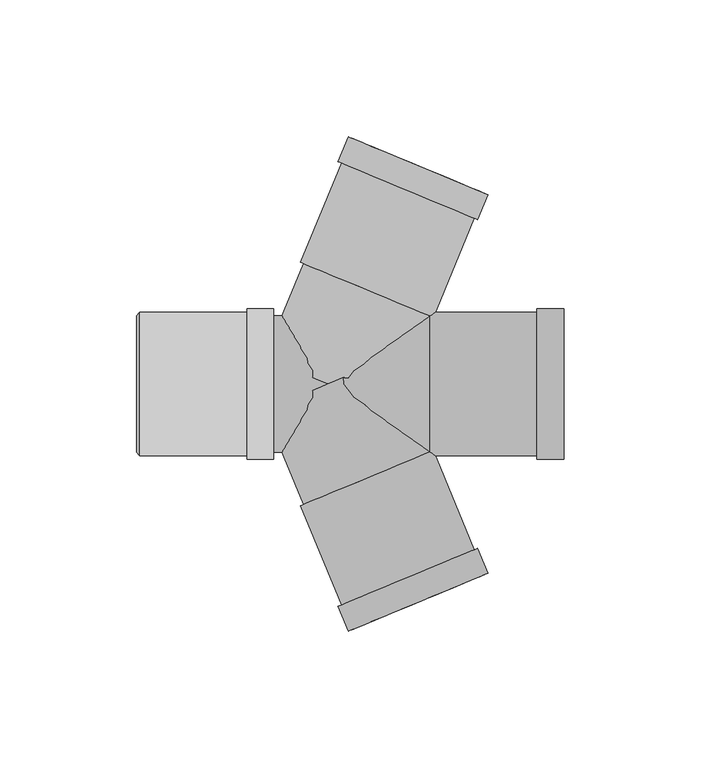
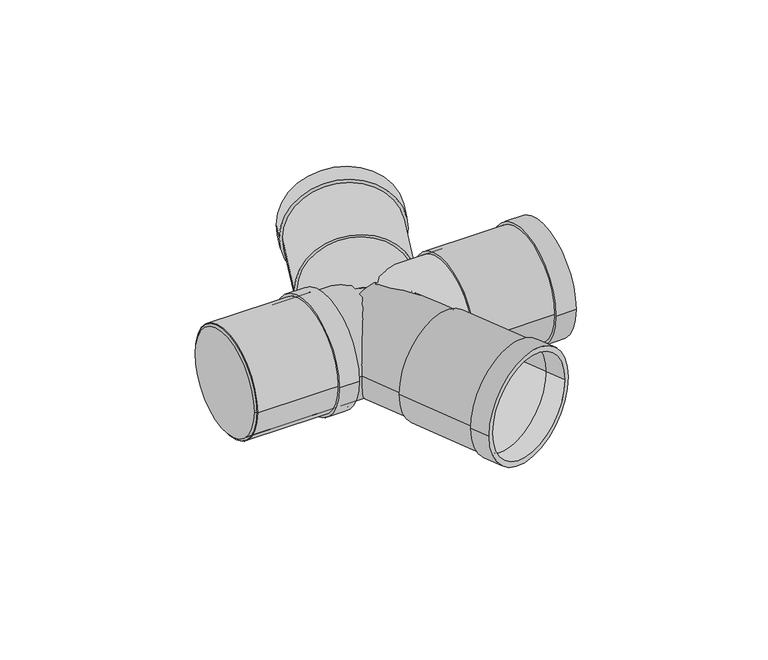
"""IFC4 building model written with IfcOpenShell, lengths in millimetres: pipe fitting geometry, Superdrain HTDA-Double Branch : Superdrain HTDA-Double Branch."""

import ifcopenshell
import ifcopenshell.guid

model = None  # the IFC model being written
_history = None  # IfcOwnerHistory: only IFC2X3 demands one
_inside = {}  # id of a spatial element -> (the spatial element, [elements in it])
_under = {}  # id of a project, library or spatial element -> (it, [spatial elements below it])
_declared = {}  # id of a project -> (the project, [libraries it declares])
_typed = {}  # id of a type object -> (the type object, [elements of that type])
_made_of = {}  # id of a material, layer set ... -> (it, [elements and type objects made of it])


def new_model(schema):
    """Start an empty IFC model of exactly this schema.

    Asked for "IFC4X3", IfcOpenShell would pick the latest addendum, in which some entities
    have other attributes; the version numbers below select the first issue.
    IFC2X3 requires an IfcOwnerHistory on every rooted entity: one is made here for all.
    """
    global model, _history
    if schema == "IFC4X3":
        model = ifcopenshell.file(schema_version=(4, 3, 0, 0))
    else:
        model = ifcopenshell.file(schema=schema)
    _inside.clear()
    _under.clear()
    _declared.clear()
    _typed.clear()
    _made_of.clear()
    _history = None
    if model.schema == "IFC2X3":
        org = make("IfcOrganization", Name="unknown")
        user = make(
            "IfcPersonAndOrganization",
            ThePerson=make("IfcPerson", FamilyName="unknown"),
            TheOrganization=org,
        )
        app = make(
            "IfcApplication",
            ApplicationDeveloper=org,
            Version="unknown",
            ApplicationFullName="unknown",
            ApplicationIdentifier="unknown",
        )
        _history = make(
            "IfcOwnerHistory",
            OwningUser=user,
            OwningApplication=app,
            ChangeAction="ADDED",
            CreationDate=0,
        )
    return model


def make(cls, **values):
    """One entity of the class cls with the attributes given. An attribute that is None is left unset."""
    return model.create_entity(
        cls, **{name: value for name, value in values.items() if value is not None}
    )


def rooted(cls, **values):
    """An entity with a GlobalId (a new one), such as an element, a storey or a relation."""
    return make(cls, GlobalId=ifcopenshell.guid.new(), OwnerHistory=_history, **values)


def si_unit(unit_type, name, prefix=None):
    """IfcSIUnit, for example si_unit("LENGTHUNIT", "METRE", prefix="MILLI")."""
    return make("IfcSIUnit", UnitType=unit_type, Prefix=prefix, Name=name)


def assignment(units):
    """IfcUnitAssignment: the units of a project."""
    return None if units is None else make("IfcUnitAssignment", Units=units)


def point(xyz):
    """IfcCartesianPoint."""
    return None if xyz is None else make("IfcCartesianPoint", Coordinates=xyz)


def direction(xyz):
    """IfcDirection."""
    return None if xyz is None else make("IfcDirection", DirectionRatios=xyz)


def frame(location, z_axis=None, x_axis=None):
    """IfcAxis2Placement3D, a coordinate frame: its origin and axes. An axis left out is left unset."""
    return make(
        "IfcAxis2Placement3D",
        Location=point(location),
        Axis=direction(z_axis),
        RefDirection=direction(x_axis),
    )


def frame_2d(location, x_axis=None):
    """IfcAxis2Placement2D, a coordinate frame in the plane: its origin and x axis."""
    return make(
        "IfcAxis2Placement2D", Location=point(location), RefDirection=direction(x_axis)
    )


def origin():
    """The frame at (0, 0, 0) with its axes left unset."""
    return frame((0.0, 0.0, 0.0))


def origin_2d():
    """The frame at (0, 0) in the plane with its x axis left unset."""
    return frame_2d((0.0, 0.0))


def place(relative_to, where):
    """IfcLocalPlacement: puts the frame where relative to a parent placement (None: the world)."""
    return make(
        "IfcLocalPlacement", PlacementRelTo=relative_to, RelativePlacement=where
    )


def context(
    kind, dimensions, precision=None, world=None, true_north=None, identifier=None
):
    """IfcGeometricRepresentationContext, for example the 3D "Model" context."""
    return make(
        "IfcGeometricRepresentationContext",
        ContextIdentifier=identifier,
        ContextType=kind,
        CoordinateSpaceDimension=dimensions,
        Precision=precision,
        WorldCoordinateSystem=world,
        TrueNorth=true_north,
    )


def project(units=None, contexts=None):
    """IfcProject with its units and contexts."""
    return rooted(
        "IfcProject",
        Name="project",
        RepresentationContexts=contexts,
        UnitsInContext=assignment(units),
    )


def spatial(cls, under=None, at=None, **own):
    """A site, building, storey or space (cls), placed at a placement, below another one or the project."""
    s = rooted(cls, ObjectPlacement=at, **own)
    if under is not None:
        _under.setdefault(under.id(), (under, []))[1].append(s)
    return s


def polyline(points):
    """IfcPolyline through the points."""
    return make("IfcPolyline", Points=[point(p) for p in points])


def circle_curve(where, radius):
    """IfcCircle in the frame where."""
    return make("IfcCircle", Position=where, Radius=radius)


def trimmed(basis, trim1, trim2, sense, master):
    """IfcTrimmedCurve: the piece of a basis curve between two trims."""
    return make(
        "IfcTrimmedCurve",
        BasisCurve=basis,
        Trim1=trim1,
        Trim2=trim2,
        SenseAgreement=sense,
        MasterRepresentation=master,
    )


def segment(curve, same_sense, transition):
    """IfcCompositeCurveSegment."""
    return make(
        "IfcCompositeCurveSegment",
        Transition=transition,
        SameSense=same_sense,
        ParentCurve=curve,
    )


def composite_curve(segments, self_intersect=None):
    """IfcCompositeCurve: segments joined end to end."""
    return make("IfcCompositeCurve", Segments=segments, SelfIntersect=self_intersect)


def outline(outer, holes=None, kind="AREA"):
    """IfcArbitraryClosedProfileDef: a profile drawn as a closed curve; with holes, ...WithVoids."""
    if holes is None:
        return make("IfcArbitraryClosedProfileDef", ProfileType=kind, OuterCurve=outer)
    return make(
        "IfcArbitraryProfileDefWithVoids",
        ProfileType=kind,
        OuterCurve=outer,
        InnerCurves=holes,
    )


def extrude(swept, where, along, depth):
    """IfcExtrudedAreaSolid: the profile swept, set in the frame where, extruded along a direction by depth."""
    return make(
        "IfcExtrudedAreaSolid",
        SweptArea=swept,
        Position=where,
        ExtrudedDirection=direction(along),
        Depth=depth,
    )


def shape(context_of_items, identifier, shape_type, items):
    """IfcShapeRepresentation: the items that make up one representation, for example the "Body"."""
    return make(
        "IfcShapeRepresentation",
        ContextOfItems=context_of_items,
        RepresentationIdentifier=identifier,
        RepresentationType=shape_type,
        Items=items,
    )


def source(mapping_origin, context_of_items, identifier, shape_type, items):
    """IfcRepresentationMap: a shape defined once, which mapped items show again and again."""
    return make(
        "IfcRepresentationMap",
        MappingOrigin=mapping_origin,
        MappedRepresentation=shape(context_of_items, identifier, shape_type, items),
    )


def transform(
    local_origin,
    x_axis=None,
    y_axis=None,
    z_axis=None,
    scale=None,
    scale2=None,
    scale3=None,
    uniform=True,
):
    """IfcCartesianTransformationOperator3D, or its non-uniform kind. x_axis, y_axis, z_axis: its Axis1, 2, 3."""
    if uniform:
        return make(
            "IfcCartesianTransformationOperator3D",
            Axis1=direction(x_axis),
            Axis2=direction(y_axis),
            LocalOrigin=point(local_origin),
            Scale=scale,
            Axis3=direction(z_axis),
        )
    return make(
        "IfcCartesianTransformationOperator3DnonUniform",
        Axis1=direction(x_axis),
        Axis2=direction(y_axis),
        LocalOrigin=point(local_origin),
        Scale=scale,
        Axis3=direction(z_axis),
        Scale2=scale2,
        Scale3=scale3,
    )


def mapped(mapping_source, mapping_target):
    """IfcMappedItem: shows the shape of a source again, moved by a transform."""
    return make(
        "IfcMappedItem", MappingSource=mapping_source, MappingTarget=mapping_target
    )


def made_of(thing, what):
    """Note that an element or type object is made of a material, layer set ...; save() writes the relation."""
    if what is not None:
        _made_of.setdefault(what.id(), (what, []))[1].append(thing)
    return thing


def element(
    cls,
    number,
    at=None,
    inside=None,
    cuts=None,
    type_object=None,
    material=None,
    context=None,
    identifier="Body",
    shape_type=None,
    held_by="IfcProductDefinitionShape",
    body=None,
    shapes=None,
    **own,
):
    """One element of the class cls, such as IfcWall. Its Tag is "e" and its number.

    at: its placement. inside: the storey or other place that contains it. cuts: it is an
    opening in that element (IfcRelVoidsElement). A single representation is given by context,
    identifier, shape_type and body (its items); several are given by shapes. held_by: the class
    of the entity that holds the representations. save() writes the other relations.
    """
    e = rooted(cls, Tag="e%d" % number, ObjectPlacement=at, **own)
    if body is not None:
        shapes = [shape(context, identifier, shape_type, body)]
    if shapes is not None:
        e.Representation = make(held_by, Representations=shapes)
    if inside is not None:
        _inside.setdefault(inside.id(), (inside, []))[1].append(e)
    if cuts is not None:
        rooted(
            "IfcRelVoidsElement", RelatingBuildingElement=cuts, RelatedOpeningElement=e
        )
    if type_object is not None:
        _typed.setdefault(type_object.id(), (type_object, []))[1].append(e)
    return made_of(e, material)


def aggregate(whole, parts):
    """IfcRelAggregates: a whole, such as a stair, and the parts it consists of."""
    return rooted("IfcRelAggregates", RelatingObject=whole, RelatedObjects=parts)


def save(model, path):
    """Write the relations noted so far, then the file.

    IfcRelAggregates (storeys below a building ...), IfcRelContainedInSpatialStructure (elements
    in a storey), IfcRelDefinesByType, IfcRelAssociatesMaterial and IfcRelDeclares: one each for
    every whole, place, type object, material and project.
    """
    for whole, parts in _under.values():
        aggregate(whole, parts)
    for where, things in _inside.values():
        rooted(
            "IfcRelContainedInSpatialStructure",
            RelatedElements=things,
            RelatingStructure=where,
        )
    for kind, things in _typed.values():
        rooted("IfcRelDefinesByType", RelatedObjects=things, RelatingType=kind)
    for what, things in _made_of.values():
        rooted("IfcRelAssociatesMaterial", RelatedObjects=things, RelatingMaterial=what)
    for by, libraries in _declared.values():
        rooted("IfcRelDeclares", RelatingContext=by, RelatedDefinitions=libraries)
    model.write(path)


def plane_surface(at):
    """IfcPlane: the flat surface through the origin of the frame at, square to its z axis."""
    return make("IfcPlane", Position=at)


def revolved_surface(curve, axis_point, axis_direction):
    """IfcSurfaceOfRevolution: the curve turned about the line through axis_point along axis_direction."""
    return make(
        "IfcSurfaceOfRevolution",
        SweptCurve=make("IfcArbitraryOpenProfileDef", ProfileType="CURVE", Curve=curve),
        AxisPosition=make("IfcAxis1Placement", Location=point(axis_point), Axis=direction(axis_direction)),
    )


def advanced_brep(points, edges, surfaces, faces):
    """IfcAdvancedBrep: a solid bounded by faces that lie on surfaces and meet in shared edges.

    An edge is (start, end): straight between two places in points (the first is 0);
    or (start, end, curve); or (start, end, curve, False) where it runs against its curve.
    A face is (place in surfaces, loops), or (place, loops, False) where it looks against
    its surface's normal. A loop lists edges by number (the first is 1), with a minus sign
    where the edge is run from its end to its start. The first loop is the outer one.
    """
    corners = [point(p) for p in points]
    vertices = [make("IfcVertexPoint", VertexGeometry=c) for c in corners]
    made = []
    for start, end, *more in edges:
        made.append(
            make(
                "IfcEdgeCurve",
                EdgeStart=vertices[start],
                EdgeEnd=vertices[end],
                EdgeGeometry=more[0] if more else make("IfcPolyline", Points=[corners[start], corners[end]]),
                SameSense=more[1] if len(more) > 1 else True,
            )
        )
    hull = []
    for where, loops, *sense in faces:
        bounds = []
        for j, loop in enumerate(loops):
            ring = [make("IfcOrientedEdge", EdgeElement=made[abs(k) - 1], Orientation=k > 0) for k in loop]
            bounds.append(
                make(
                    "IfcFaceOuterBound" if j == 0 else "IfcFaceBound",
                    Bound=make("IfcEdgeLoop", EdgeList=ring),
                    Orientation=True,
                )
            )
        hull.append(make("IfcAdvancedFace", Bounds=bounds, FaceSurface=surfaces[where], SameSense=sense[0] if sense else True))
    return make("IfcAdvancedBrep", Outer=make("IfcClosedShell", CfsFaces=hull))


def pipe_fitting_e68889b6(model_context):
    return source(origin(), model_context, "Body", "SolidModel", [
        extrude(outline(composite_curve([segment(trimmed(circle_curve(origin_2d(), 26.25), [point((26.25, 0.0))], [point((-26.25, 0.0))], False, "CARTESIAN"), True, "CONTINUOUS"), segment(trimmed(circle_curve(origin_2d(), 26.25), [point((-26.25, 0.0))], [point((26.25, 0.0))], False, "CARTESIAN"), True, "CONTINUOUS")], self_intersect=False), holes=[composite_curve([segment(trimmed(circle_curve(origin_2d(), 25.0), [point((25.0, 0.0))], [point((-25.0, 0.0))], True, "CARTESIAN"), True, "CONTINUOUS"), segment(trimmed(circle_curve(origin_2d(), 25.0), [point((-25.0, 0.0))], [point((25.0, 0.0))], True, "CARTESIAN"), True, "CONTINUOUS")], self_intersect=False)]), frame((-68.8, 0.0, 0.0), z_axis=(1.0, 0.0, 0.0), x_axis=(0.0, 1.0, 0.0)), (0.0, 0.0, 1.0), 49.0),
        extrude(outline(composite_curve([segment(trimmed(circle_curve(origin_2d(), 27.5625), [point((27.5625, 0.0))], [point((-27.5625, 0.0))], False, "CARTESIAN"), True, "CONTINUOUS"), segment(trimmed(circle_curve(origin_2d(), 27.5625), [point((-27.5625, 0.0))], [point((27.5625, 0.0))], False, "CARTESIAN"), True, "CONTINUOUS")], self_intersect=False), holes=[composite_curve([segment(trimmed(circle_curve(origin_2d(), 25.0), [point((25.0, 0.0))], [point((-25.0, 0.0))], True, "CARTESIAN"), True, "CONTINUOUS"), segment(trimmed(circle_curve(origin_2d(), 25.0), [point((-25.0, 0.0))], [point((25.0, 0.0))], True, "CARTESIAN"), True, "CONTINUOUS")], self_intersect=False)]), frame((-29.6, 0.0, 0.0), z_axis=(1.0, 0.0, 0.0), x_axis=(0.0, 1.0, 0.0)), (0.0, 0.0, 1.0), 9.8),
        advanced_brep(
        [(-69.8, 25.0, 0.0), (-69.8, -25.0, 0.0), (-68.8, 26.25, 0.0), (-68.8, -26.25, 0.0)],
        [
            (0, 1, circle_curve(frame((-69.8, 0.0, 0.0), z_axis=(-1.0, 0.0, 0.0), x_axis=(0.0, 1.0000000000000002, 0.0)), 25.0)),
            (1, 0, circle_curve(frame((-69.8, 0.0, 0.0), z_axis=(-1.0, 0.0, 0.0), x_axis=(0.0, -1.0000000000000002, 0.0)), 25.0)),
            (2, 3, circle_curve(frame((-68.8, 0.0, 0.0), z_axis=(1.0, 0.0, 0.0), x_axis=(0.0, -1.0000000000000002, 0.0)), 26.25)),
            (3, 2, circle_curve(frame((-68.8, 0.0, 0.0), z_axis=(1.0, 0.0, 0.0), x_axis=(0.0, 1.0000000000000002, 0.0)), 26.25)),
            (3, 1),
            (0, 2),
        ],
        [
            plane_surface(frame((-69.8, 0.0, 0.0), z_axis=(-1.0, 0.0, 0.0), x_axis=(0.0, 0.0, -1.0))),
            plane_surface(frame((-68.8, 0.0, 0.0), z_axis=(1.0, 0.0, 0.0), x_axis=(0.0, 0.0, -1.0))),
            revolved_surface(polyline([(-69.8, 25.0, 0.0), (-68.8, 26.25, 0.0)]), (-89.8, 0.0, 0.0), (1.0000000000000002, 0.0, 0.0)),
            revolved_surface(polyline([(-69.8, -25.0, 0.0), (-68.8, -26.25, 0.0)]), (-89.8, 0.0, 0.0), (1.0000000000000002, 0.0, 0.0)),
        ],
        [
            (0, [[1, 2]]),
            (1, [[3, 4]]),
            (2, [[-4, 5, -1, 6]]),
            (3, [[-3, -6, -2, -5]]),
        ],
    ),
        extrude(outline(composite_curve([segment(trimmed(circle_curve(origin_2d(), 27.5625), [point((0.0, -27.5625))], [point((0.0, 27.5625))], False, "CARTESIAN"), True, "CONTINUOUS"), segment(trimmed(circle_curve(origin_2d(), 27.5625), [point((0.0, 27.5625))], [point((0.0, -27.5625))], False, "CARTESIAN"), True, "CONTINUOUS")], self_intersect=False), holes=[composite_curve([segment(trimmed(circle_curve(origin_2d(), 25.0), [point((0.0, -25.0))], [point((0.0, 25.0))], True, "CARTESIAN"), True, "CONTINUOUS"), segment(trimmed(circle_curve(origin_2d(), 25.0), [point((0.0, 25.0))], [point((0.0, -25.0))], True, "CARTESIAN"), True, "CONTINUOUS")], self_intersect=False)]), frame((32.9873119, -79.6384157, 0.0), z_axis=(-0.3826834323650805, 0.9238795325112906, 0.0), x_axis=(0.0, 0.0, 1.0)), (0.0, 0.0, 1.0), 9.8),
        extrude(outline(composite_curve([segment(trimmed(circle_curve(origin_2d(), 26.25), [point((0.0, -26.2500001))], [point((0.0, 26.25))], False, "CARTESIAN"), True, "CONTINUOUS"), segment(trimmed(circle_curve(origin_2d(), 26.25), [point((0.0, 26.25))], [point((0.0, -26.2500001))], False, "CARTESIAN"), True, "CONTINUOUS")], self_intersect=False), holes=[composite_curve([segment(trimmed(circle_curve(origin_2d(), 25.0), [point((0.0, -25.0))], [point((0.0, 25.0))], True, "CARTESIAN"), True, "CONTINUOUS"), segment(trimmed(circle_curve(origin_2d(), 25.0), [point((0.0, 25.0))], [point((0.0, -25.0))], True, "CARTESIAN"), True, "CONTINUOUS")], self_intersect=False)]), frame((32.9873119, -79.6384157, 0.0), z_axis=(-0.3826834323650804, 0.9238795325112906, 0.0), x_axis=(0.0, 0.0, 1.0)), (0.0, 0.0, 1.0), 49.0),
        extrude(outline(composite_curve([segment(trimmed(circle_curve(origin_2d(), 25.0), [point((0.0, -25.0))], [point((0.0, 25.0))], False, "CARTESIAN"), True, "CONTINUOUS"), segment(trimmed(circle_curve(origin_2d(), 25.0), [point((0.0, 25.0))], [point((0.0, -25.0))], False, "CARTESIAN"), True, "CONTINUOUS")], self_intersect=False)), frame((14.2358237, -34.3683186, 0.0), z_axis=(-0.38268343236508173, 0.9238795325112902, 0.0), x_axis=(0.0, 0.0, 1.0)), (0.0, 0.0, 1.0), 37.2),
        extrude(outline(composite_curve([segment(trimmed(circle_curve(origin_2d(), 27.5625), [point((0.0, 27.5625))], [point((0.0, -27.5625))], False, "CARTESIAN"), True, "CONTINUOUS"), segment(trimmed(circle_curve(origin_2d(), 27.5625), [point((0.0, -27.5625))], [point((0.0, 27.5625))], False, "CARTESIAN"), True, "CONTINUOUS")], self_intersect=False), holes=[composite_curve([segment(trimmed(circle_curve(origin_2d(), 25.0), [point((0.0, 25.0))], [point((0.0, -25.0))], True, "CARTESIAN"), True, "CONTINUOUS"), segment(trimmed(circle_curve(origin_2d(), 25.0), [point((0.0, -25.0))], [point((0.0, 25.0))], True, "CARTESIAN"), True, "CONTINUOUS")], self_intersect=False)]), frame((29.2370142, 70.5843963, 0.0), z_axis=(0.38268343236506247, 0.9238795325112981, 0.0), x_axis=(0.0, 0.0, 1.0)), (0.0, 0.0, 1.0), 9.8),
        extrude(outline(composite_curve([segment(trimmed(circle_curve(origin_2d(), 26.25), [point((0.0, 26.25))], [point((0.0, -26.25))], False, "CARTESIAN"), True, "CONTINUOUS"), segment(trimmed(circle_curve(origin_2d(), 26.25), [point((0.0, -26.25))], [point((0.0, 26.25))], False, "CARTESIAN"), True, "CONTINUOUS")], self_intersect=False), holes=[composite_curve([segment(trimmed(circle_curve(origin_2d(), 25.0), [point((0.0, 25.0))], [point((0.0, -25.0))], True, "CARTESIAN"), True, "CONTINUOUS"), segment(trimmed(circle_curve(origin_2d(), 25.0), [point((0.0, -25.0))], [point((0.0, 25.0))], True, "CARTESIAN"), True, "CONTINUOUS")], self_intersect=False)]), frame((14.2358237, 34.3683186, 0.0), z_axis=(0.38268343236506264, 0.9238795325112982, 0.0), x_axis=(0.0, 0.0, 1.0)), (0.0, 0.0, 1.0), 49.0),
        extrude(outline(composite_curve([segment(trimmed(circle_curve(origin_2d(), 25.0), [point((0.0, 25.0))], [point((0.0, -25.0))], False, "CARTESIAN"), True, "CONTINUOUS"), segment(trimmed(circle_curve(origin_2d(), 25.0), [point((0.0, -25.0))], [point((0.0, 25.0))], False, "CARTESIAN"), True, "CONTINUOUS")], self_intersect=False)), frame((0.0, 0.0, 0.0), z_axis=(0.38268343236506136, 0.9238795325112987, 0.0), x_axis=(0.0, 0.0, 1.0)), (0.0, 0.0, 1.0), 37.2),
        extrude(outline(composite_curve([segment(trimmed(circle_curve(origin_2d(), 27.5625), [point((-27.5625, 0.0))], [point((27.5625, 0.0))], False, "CARTESIAN"), True, "CONTINUOUS"), segment(trimmed(circle_curve(origin_2d(), 27.5625), [point((27.5625, 0.0))], [point((-27.5625, 0.0))], False, "CARTESIAN"), True, "CONTINUOUS")], self_intersect=False), holes=[composite_curve([segment(trimmed(circle_curve(origin_2d(), 26.25), [point((-26.25, 0.0))], [point((26.25, 0.0))], True, "CARTESIAN"), True, "CONTINUOUS"), segment(trimmed(circle_curve(origin_2d(), 26.25), [point((26.25, 0.0))], [point((-26.25, 0.0))], True, "CARTESIAN"), True, "CONTINUOUS")], self_intersect=False)]), frame((76.4, 0.0, 0.0), z_axis=(1.0, 0.0, 0.0), x_axis=(0.0, 1.0, 0.0)), (0.0, 0.0, 1.0), 9.8),
        extrude(outline(composite_curve([segment(trimmed(circle_curve(origin_2d(), 26.25), [point((-26.25, 0.0))], [point((26.25, 0.0))], False, "CARTESIAN"), True, "CONTINUOUS"), segment(trimmed(circle_curve(origin_2d(), 26.25), [point((26.25, 0.0))], [point((-26.25, 0.0))], False, "CARTESIAN"), True, "CONTINUOUS")], self_intersect=False), holes=[composite_curve([segment(trimmed(circle_curve(origin_2d(), 25.0), [point((-25.0, 0.0))], [point((25.0, 0.0))], True, "CARTESIAN"), True, "CONTINUOUS"), segment(trimmed(circle_curve(origin_2d(), 25.0), [point((25.0, 0.0))], [point((-25.0, 0.0))], True, "CARTESIAN"), True, "CONTINUOUS")], self_intersect=False)]), frame((37.2, 0.0, 0.0), z_axis=(1.0, 0.0, 0.0), x_axis=(0.0, 1.0, 0.0)), (0.0, 0.0, 1.0), 49.0),
        extrude(outline(composite_curve([segment(trimmed(circle_curve(origin_2d(), 25.0), [point((-25.0, 0.0))], [point((25.0, 0.0))], False, "CARTESIAN"), True, "CONTINUOUS"), segment(trimmed(circle_curve(origin_2d(), 25.0), [point((25.0, 0.0))], [point((-25.0, 0.0))], False, "CARTESIAN"), True, "CONTINUOUS")], self_intersect=False)), frame((0.0, 0.0, 0.0), z_axis=(1.0, 0.0, 0.0), x_axis=(0.0, 1.0, 0.0)), (0.0, 0.0, 1.0), 37.2),
        extrude(outline(composite_curve([segment(trimmed(circle_curve(origin_2d(), 25.0), [point((-25.0, 0.0))], [point((25.0, 0.0))], False, "CARTESIAN"), True, "CONTINUOUS"), segment(trimmed(circle_curve(origin_2d(), 25.0), [point((25.0, 0.0))], [point((-25.0, 0.0))], False, "CARTESIAN"), True, "CONTINUOUS")], self_intersect=False)), frame((-68.8, 0.0, 0.0), z_axis=(1.0, 0.0, 0.0), x_axis=(0.0, 1.0, 0.0)), (0.0, 0.0, 1.0), 68.8),
    ])


if __name__ == "__main__":
    model = new_model("IFC4")
    model_context = context("Model", 3, world=origin())
    ifc_project = project(units=[si_unit("LENGTHUNIT", "METRE", prefix="MILLI")], contexts=[model_context])
    site = spatial("IfcSite", under=ifc_project)
    building = spatial("IfcBuilding", under=site)
    placement = place(None, origin())
    pipe_fitting_shape = pipe_fitting_e68889b6(model_context)
    element("IfcPipeFitting", 1, ObjectType="Superdrain HTDA-Double Branch : Superdrain HTDA-Double Branch", at=placement, inside=building, context=model_context, shape_type="MappedRepresentation", body=[
        mapped(pipe_fitting_shape, transform((0.0, 0.0, 0.0), x_axis=(1.0, 0.0, 0.0), y_axis=(0.0, 1.0, 0.0), z_axis=(0.0, 0.0, 1.0))),
    ])
    save(model, "model.ifc")
